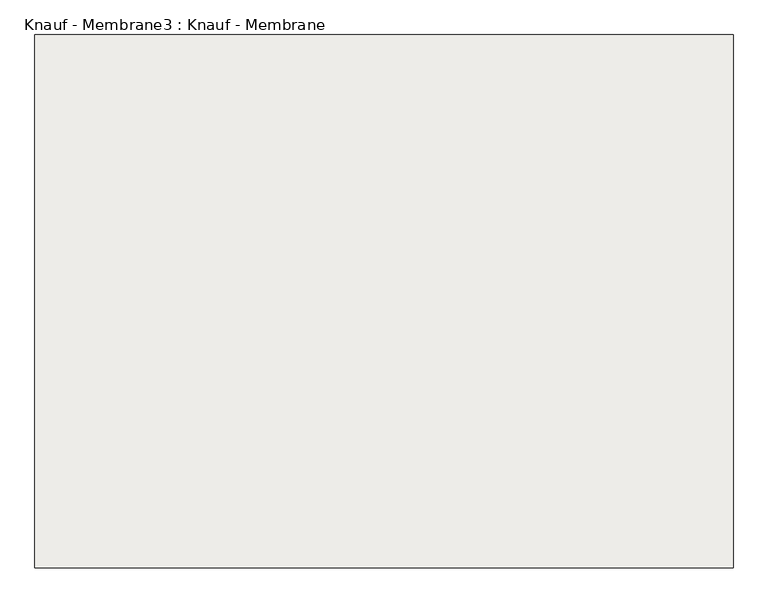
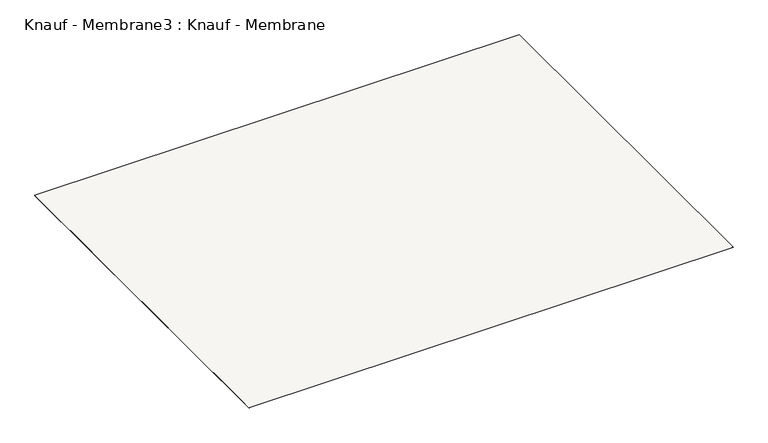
"""IFC4 building model written with IfcOpenShell, lengths in millimetres: slab geometry, Knauf - Membrane3 : Knauf - Membrane."""

from ifc_helpers import new_model, si_unit, frame, origin, place, context, project, spatial, polyline, outline, extrude, source, transform, mapped, element, save


def knauf_membrane3_knauf_membrane_b61dee38(model_context):
    return source(origin(), model_context, "Body", "SweptSolid", [
        extrude(outline(polyline([(18766.285179, 16926.9464372), (20566.285179, 16926.9464372), (20566.285179, 15551.9464372), (18766.285179, 15551.9464372), (18766.285179, 16926.9464372)])), frame((0.0, 0.0, 13.0), z_axis=(0.0, 0.0, 1.0), x_axis=(1.0, 0.0, 0.0)), (0.0, 0.0, 1.0), 1.0),
    ])


if __name__ == "__main__":
    model = new_model("IFC4")
    model_context = context("Model", 3, world=origin())
    ifc_project = project(units=[si_unit("LENGTHUNIT", "METRE", prefix="MILLI")], contexts=[model_context])
    site = spatial("IfcSite", under=ifc_project)
    building = spatial("IfcBuilding", under=site)
    placement = place(None, origin())
    knauf_membrane3_knauf_membrane_shape = knauf_membrane3_knauf_membrane_b61dee38(model_context)
    element("IfcSlab", 1, ObjectType="Knauf - Membrane3 : Knauf - Membrane", at=placement, inside=building, context=model_context, shape_type="MappedRepresentation", body=[
        mapped(knauf_membrane3_knauf_membrane_shape, transform((0.0, 0.0, 0.0), x_axis=(1.0, 0.0, 0.0), y_axis=(0.0, 1.0, 0.0), z_axis=(0.0, 0.0, 1.0))),
    ])
    save(model, "model.ifc")
